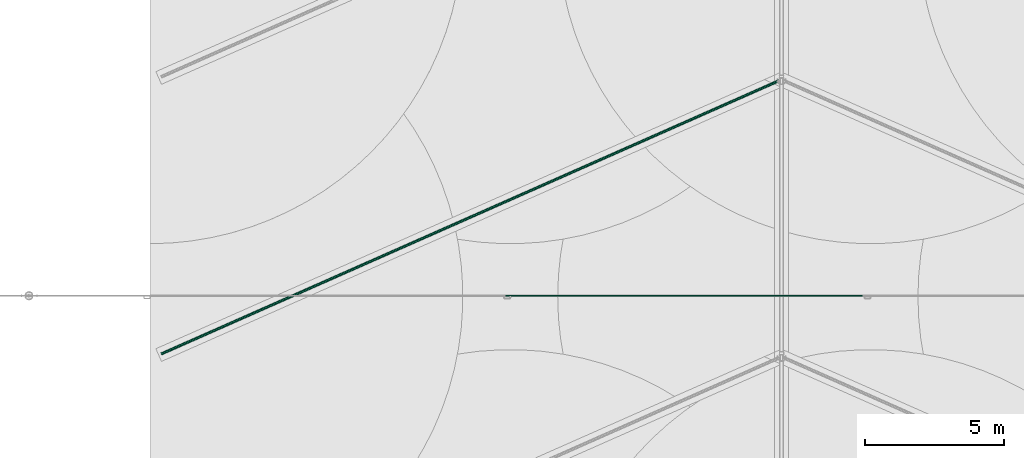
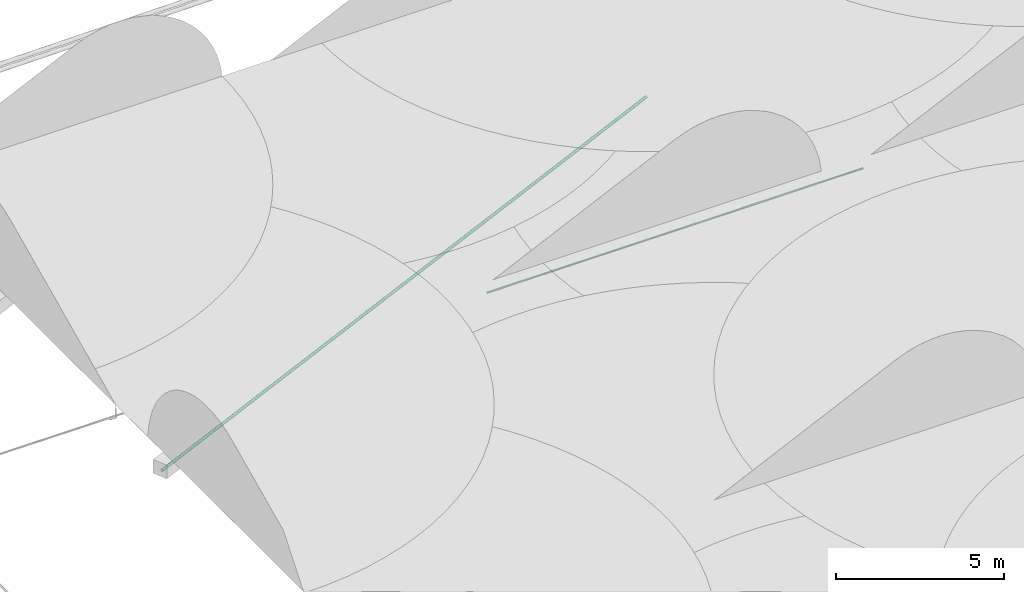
# One storey, part 22 of 166: 2 flow segments.
"""IFC2X3 building model written with IfcOpenShell, lengths in metres."""

from ifc_helpers import new_model, entity, si_unit, converted_unit, direction, frame, frame_2d, origin, origin_2d_with_axis, place, context, subcontext, project, spatial, circle, extrude, type_object, element, save


model = new_model("IFC2X3")

# Units and contexts
model_context = context("Model", 3, precision=1e-05, world=origin(), true_north=direction((6.123233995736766e-17, 1.0)))
body_context = subcontext(model_context, "Body", "Model", "MODEL_VIEW")
ifc_project = project(units=[si_unit("LENGTHUNIT", "METRE"), converted_unit("PLANEANGLEUNIT", "DEGREE", entity("IfcPlaneAngleMeasure", 0.017453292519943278), si_unit("PLANEANGLEUNIT", "RADIAN"), dimensions=[0, 0, 0, 0, 0, 0, 0]), si_unit("AREAUNIT", "SQUARE_METRE")], contexts=[model_context])

# Site, building, storey
site_placement = place(None, origin())
site = spatial("IfcSite", under=ifc_project, at=site_placement, Name="Default", CompositionType="ELEMENT")
building_placement = place(site_placement, origin())
building = spatial("IfcBuilding", under=site, at=building_placement, Name="CASA DE ACOLHIDA PARA IDOSOS", CompositionType="ELEMENT")
storey_placement = place(building_placement, frame((0.0, 0.0, -1.7499999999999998)))
storey = spatial("IfcBuildingStorey", under=building, at=storey_placement, Name="IMPLANTAÇÃO DRENAGEM", CompositionType="ELEMENT", Elevation=-1.7499999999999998)

# Flow segments
pipe_segment_type_1 = type_object("IfcPipeSegmentType", Name="Tipos de tubos:PLUV_Tubo PEAD Corrugado", PredefinedType="NOTDEFINED")
flow_segment_1_placement = place(storey_placement, origin())
element("IfcFlowSegment", 1, at=flow_segment_1_placement, inside=storey, type_object=pipe_segment_type_1, Name="Tipos de tubos:PLUV_Tubo PEAD Corrugado", ObjectType="Tipos de tubos:PLUV_Tubo PEAD Corrugado", context=body_context, shape_type="SweptSolid", body=[
    extrude(circle(Radius=0.05, at=origin_2d_with_axis()), frame((-44.368290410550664, 33.95305791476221, -1.05000995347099), z_axis=(0.9144899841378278, 0.404484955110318, -0.009999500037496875), x_axis=(0.40450517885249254, -0.9145357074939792, 0.0)), (0.0, 0.0, 1.0), 24.480228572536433),
])
pipe_segment_type_2 = type_object("IfcPipeSegmentType", Name="Tipos de tubos:AF_Tubo Marrom Soldável", PredefinedType="NOTDEFINED")
flow_segment_2_placement = place(storey_placement, origin())
element("IfcFlowSegment", 2, at=flow_segment_2_placement, inside=storey, type_object=pipe_segment_type_2, Name="Tipos de tubos:AF_Tubo Marrom Soldável", ObjectType="Tipos de tubos:AF_Tubo Marrom Soldável", context=body_context, shape_type="SweptSolid", body=[
    extrude(circle(Radius=0.025, at=frame_2d((0.0, -2.707167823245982e-16), x_axis=(1.0, 0.0))), frame((-31.958348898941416, 36.054942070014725, -0.19999999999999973), z_axis=(1.0, 0.0, 0.0), x_axis=(0.0, -1.0, 0.0)), (0.0, 0.0, 1.0), 12.9348),
])

save(model, "model.ifc")
